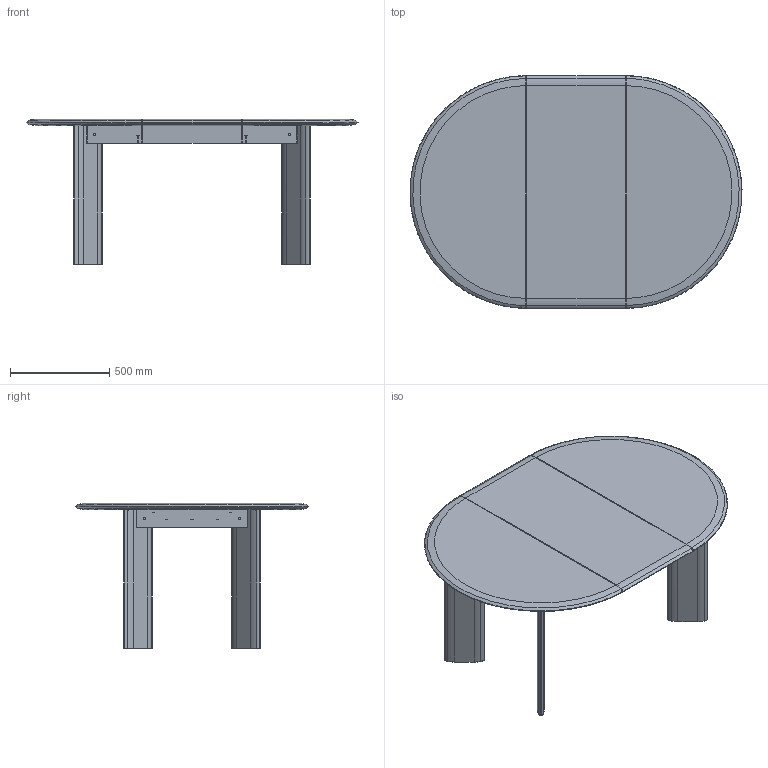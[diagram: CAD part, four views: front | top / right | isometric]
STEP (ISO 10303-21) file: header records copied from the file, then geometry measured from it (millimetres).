
FILE_DESCRIPTION(/* description */ (''),/* implementation_level */ '2;1');
FILE_NAME(/* name */ 'B1IXND~Z',/* time_stamp */ '2020-03-25T12:00:57+01:00',/* author */ (''),/* organization */ (''),/* preprocessor_version */ 'ST-DEVELOPER v16.5',/* originating_system */ '',/* authorisation */ '');
FILE_SCHEMA (('AUTOMOTIVE_DESIGN'));
Length unit declared in the file: millimetre
Products named in the file (1): Document
Bounding box: 1669.66 x 1170 x 732 mm (x, y, z)
Volume: 72645560.1 mm3; surface area: 5781778.3 mm2
Topology: 59 solids, 67 shells, 1728 faces, 4360 edges, 2868 vertices
Faces by surface type: bspline 1068, plane 660
Entity records: 100258 total; most frequent: CARTESIAN_POINT 72521, ORIENTED_EDGE 8700, EDGE_CURVE 4360, B_SPLINE_CURVE_WITH_KNOTS 3220, VERTEX_POINT 2868, EDGE_LOOP 1954, ADVANCED_FACE 1728, FACE_OUTER_BOUND 1728
